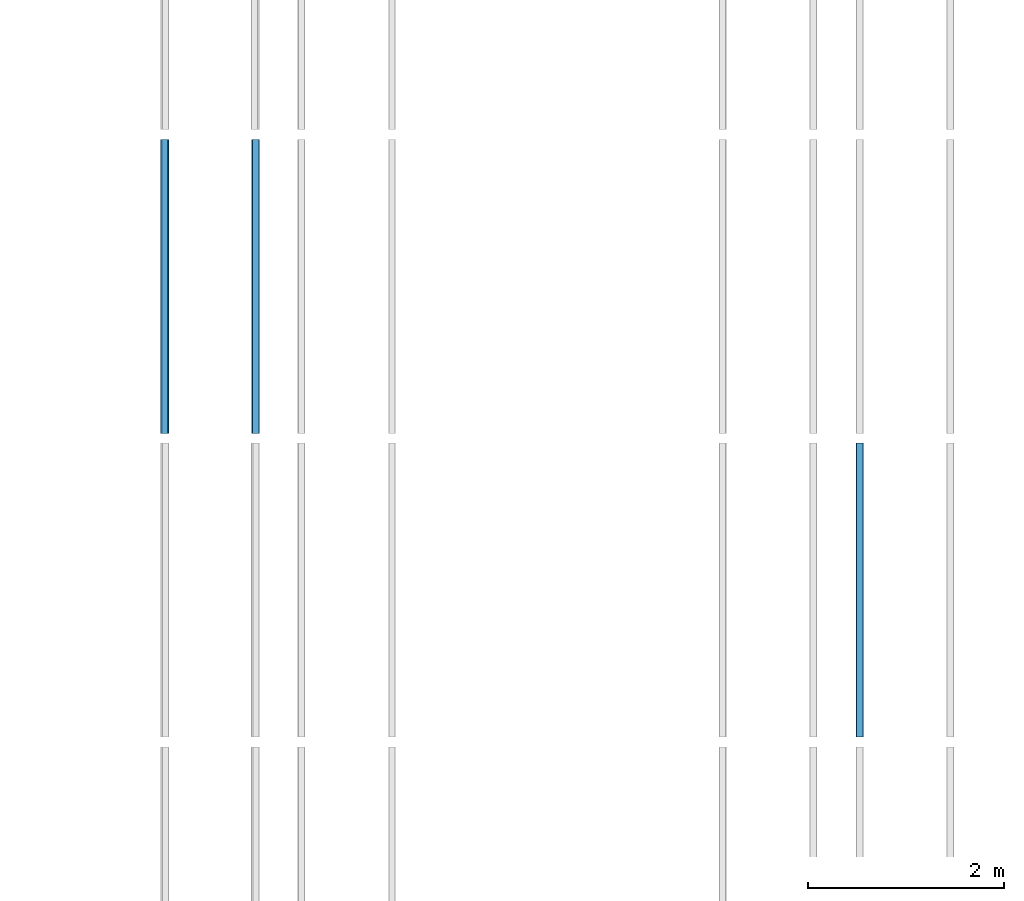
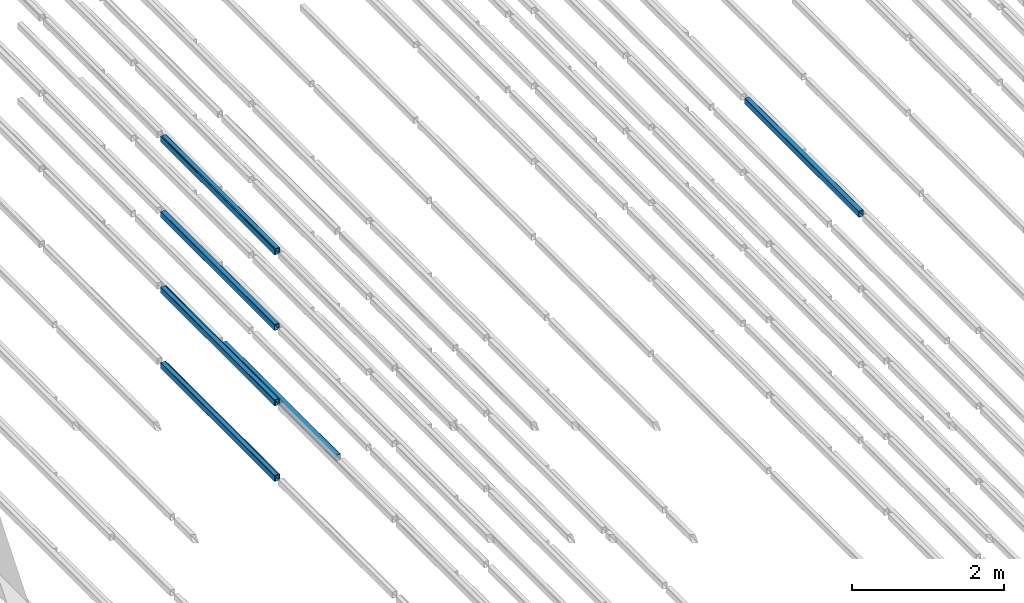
# One storey, part 60 of 290: 9 beams.
"""IFC2X3 building model written with IfcOpenShell, lengths in metres."""

from ifc_helpers import new_model, entity, si_unit, converted_unit, derived_unit, direction, frame, frame_2d, origin, place, context, subcontext, project, spatial, polyline, circle_curve, parameter, trimmed, segment, composite_curve, outline, extrude, material, type_object, element, save


model = new_model("IFC2X3")

# Units and contexts
model_context = context("Model", 3, precision=1e-05, world=origin(), true_north=direction((6.12303176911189e-17, 1.0)))
body_context = subcontext(model_context, "Body", "Model", "MODEL_VIEW")
ifc_project = project(units=[si_unit("LENGTHUNIT", "METRE"), si_unit("AREAUNIT", "SQUARE_METRE"), si_unit("VOLUMEUNIT", "CUBIC_METRE"), converted_unit("PLANEANGLEUNIT", "DEGREE", entity("IfcRatioMeasure", 0.0174532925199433), si_unit("PLANEANGLEUNIT", "RADIAN"), dimensions=[0, 0, 0, 0, 0, 0, 0]), si_unit("MASSUNIT", "GRAM", prefix="KILO"), derived_unit("MASSDENSITYUNIT", [(si_unit("MASSUNIT", "GRAM", prefix="KILO"), 1), (si_unit("LENGTHUNIT", "METRE"), -3)]), derived_unit("MOMENTOFINERTIAUNIT", [(si_unit("LENGTHUNIT", "METRE"), 4)]), si_unit("TIMEUNIT", "SECOND"), si_unit("FREQUENCYUNIT", "HERTZ"), si_unit("THERMODYNAMICTEMPERATUREUNIT", "DEGREE_CELSIUS"), derived_unit("THERMALTRANSMITTANCEUNIT", [(si_unit("MASSUNIT", "GRAM", prefix="KILO"), 1), (si_unit("THERMODYNAMICTEMPERATUREUNIT", "KELVIN"), -1), (si_unit("TIMEUNIT", "SECOND"), -3)]), derived_unit("VOLUMETRICFLOWRATEUNIT", [(si_unit("LENGTHUNIT", "METRE"), 3), (si_unit("TIMEUNIT", "SECOND"), -1)]), si_unit("ELECTRICCURRENTUNIT", "AMPERE"), si_unit("ELECTRICVOLTAGEUNIT", "VOLT"), si_unit("POWERUNIT", "WATT"), si_unit("FORCEUNIT", "NEWTON", prefix="KILO"), si_unit("ILLUMINANCEUNIT", "LUX"), si_unit("LUMINOUSFLUXUNIT", "LUMEN"), si_unit("LUMINOUSINTENSITYUNIT", "CANDELA"), derived_unit("USERDEFINED", [(si_unit("MASSUNIT", "GRAM", prefix="KILO"), -1), (si_unit("LENGTHUNIT", "METRE"), -2), (si_unit("TIMEUNIT", "SECOND"), 3), (si_unit("LUMINOUSFLUXUNIT", "LUMEN"), 1)]), derived_unit("LINEARVELOCITYUNIT", [(si_unit("LENGTHUNIT", "METRE"), 1), (si_unit("TIMEUNIT", "SECOND"), -1)]), si_unit("PRESSUREUNIT", "PASCAL"), derived_unit("USERDEFINED", [(si_unit("LENGTHUNIT", "METRE"), -2), (si_unit("MASSUNIT", "GRAM", prefix="KILO"), 1), (si_unit("TIMEUNIT", "SECOND"), -2)]), derived_unit("LINEARFORCEUNIT", [(si_unit("MASSUNIT", "GRAM", prefix="KILO"), 1), (si_unit("LENGTHUNIT", "METRE"), 1), (si_unit("TIMEUNIT", "SECOND"), -2), (si_unit("LENGTHUNIT", "METRE"), -1)]), derived_unit("PLANARFORCEUNIT", [(si_unit("MASSUNIT", "GRAM", prefix="KILO"), 1), (si_unit("LENGTHUNIT", "METRE"), 1), (si_unit("TIMEUNIT", "SECOND"), -2), (si_unit("LENGTHUNIT", "METRE"), -2)])], contexts=[model_context])

# Site, building, storey
site_placement = place(None, origin())
site = spatial("IfcSite", under=ifc_project, at=site_placement, Name="Default", CompositionType="ELEMENT")
building_placement = place(site_placement, origin())
building = spatial("IfcBuilding", under=site, at=building_placement, CompositionType="ELEMENT")
storey_placement = place(building_placement, frame((0.0, 0.0, 4.0)))
storey = spatial("IfcBuildingStorey", under=building, at=storey_placement, Name="01_OG", CompositionType="ELEMENT", Elevation=4.0)

# Beams
ifc_material = material(Name="Metall - Baustahl S235 blau")
beam_type = type_object("IfcBeamType", Name="RHS Träger (EN 10219-2):RHS 100 x 75 x 5", PredefinedType="NOTDEFINED")
beam_1_placement = place(storey_placement, frame((-195.015111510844, 39.548088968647, 2.445), z_axis=(0.0, 0.0, 1.0), x_axis=(0.0, 1.0, 0.0)))
element("IfcBeam", 1, at=beam_1_placement, inside=storey, type_object=beam_type, material=ifc_material, Name="RHS Träger (EN 10219-2):RHS 100 x 75 x 5", ObjectType="RHS Träger (EN 10219-2):RHS 100 x 75 x 5", context=body_context, shape_type="SweptSolid", body=[
    extrude(outline(composite_curve([segment(trimmed(circle_curve(frame_2d((-0.0275000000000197, -0.0399999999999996), x_axis=(1.0, 0.0)), 0.01), [parameter(180.0)], [parameter(270.0)], True, "PARAMETER"), True, "CONTINUOUS"), segment(polyline([(-0.0275000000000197, -0.0499999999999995), (0.0274999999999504, -0.0499999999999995)]), True, "CONTINUOUS"), segment(trimmed(circle_curve(frame_2d((0.0274999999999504, -0.0399999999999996), x_axis=(1.0, 0.0)), 0.01), [parameter(270.0)], [parameter(5.08888749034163e-14)], True, "PARAMETER"), True, "CONTINUOUS"), segment(polyline([(0.0374999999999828, -0.0399999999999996), (0.0374999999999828, 0.0399999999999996)]), True, "CONTINUOUS"), segment(trimmed(circle_curve(frame_2d((0.0274999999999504, 0.0399999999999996), x_axis=(1.0, 0.0)), 0.01), [parameter(360.0)], [parameter(89.9999999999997)], True, "PARAMETER"), True, "CONTINUOUS"), segment(polyline([(0.0274999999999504, 0.0500000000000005), (-0.0275000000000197, 0.0500000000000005)]), True, "CONTINUOUS"), segment(trimmed(circle_curve(frame_2d((-0.0275000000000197, 0.0399999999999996), x_axis=(1.0, 0.0)), 0.01), [parameter(90.0000000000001)], [parameter(180.0)], True, "PARAMETER"), True, "CONTINUOUS"), segment(polyline([(-0.0375000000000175, 0.0399999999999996), (-0.0375000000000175, -0.0399999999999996)]), True, "CONTINUOUS")], self_intersect=False), holes=[composite_curve([segment(polyline([(0.0274999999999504, -0.0450000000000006), (-0.0275000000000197, -0.0450000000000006)]), True, "CONTINUOUS"), segment(trimmed(circle_curve(frame_2d((-0.0275000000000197, -0.0400000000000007), x_axis=(1.0, 0.0)), 0.005), [parameter(180.0)], [parameter(270.0)], True, "PARAMETER"), False, "CONTINUOUS"), segment(polyline([(-0.0325000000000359, -0.0400000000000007), (-0.0325000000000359, 0.0399999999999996)]), True, "CONTINUOUS"), segment(trimmed(circle_curve(frame_2d((-0.0275000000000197, 0.0399999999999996), x_axis=(1.0, 0.0)), 0.005), [parameter(90.0000000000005)], [parameter(180.0)], True, "PARAMETER"), False, "CONTINUOUS"), segment(polyline([(-0.0275000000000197, 0.0449999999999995), (0.0274999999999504, 0.0449999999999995)]), True, "CONTINUOUS"), segment(trimmed(circle_curve(frame_2d((0.0274999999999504, 0.0399999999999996), x_axis=(1.0, 0.0)), 0.005), [parameter(0.0)], [parameter(90.0000000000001)], True, "PARAMETER"), False, "CONTINUOUS"), segment(polyline([(0.0324999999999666, 0.0399999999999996), (0.0324999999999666, -0.0400000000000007)]), True, "CONTINUOUS"), segment(trimmed(circle_curve(frame_2d((0.0274999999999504, -0.0400000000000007), x_axis=(1.0, 0.0)), 0.005), [parameter(270.0)], [parameter(4.07110999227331e-13)], True, "PARAMETER"), False, "CONTINUOUS")], self_intersect=False)]), frame((0.000100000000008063, 0.0374999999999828, -0.0500000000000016), z_axis=(1.0, 0.0, 0.0), x_axis=(0.0, -1.0, 0.0)), (0.0, 0.0, 1.0), 2.99979999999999),
])
beam_2_placement = place(storey_placement, frame((-202.105111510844, 42.648088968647, -1.2), z_axis=(0.0, 0.0, 1.0), x_axis=(0.0, 1.0, 0.0)))
element("IfcBeam", 2, at=beam_2_placement, inside=storey, type_object=beam_type, material=ifc_material, Name="RHS Träger (EN 10219-2):RHS 100 x 75 x 5", ObjectType="RHS Träger (EN 10219-2):RHS 100 x 75 x 5", context=body_context, shape_type="SweptSolid", body=[
    extrude(outline(composite_curve([segment(trimmed(circle_curve(frame_2d((-0.0274999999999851, -0.0400000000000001), x_axis=(1.0, 0.0)), 0.01), [parameter(180.0)], [parameter(270.0)], True, "PARAMETER"), True, "CONTINUOUS"), segment(polyline([(-0.0274999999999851, -0.05), (0.0274999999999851, -0.05)]), True, "CONTINUOUS"), segment(trimmed(circle_curve(frame_2d((0.0274999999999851, -0.0400000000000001), x_axis=(1.0, 0.0)), 0.01), [parameter(270.0)], [parameter(5.08888749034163e-14)], True, "PARAMETER"), True, "CONTINUOUS"), segment(polyline([(0.0375000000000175, -0.0400000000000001), (0.0375000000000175, 0.0400000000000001)]), True, "CONTINUOUS"), segment(trimmed(circle_curve(frame_2d((0.0274999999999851, 0.0400000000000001), x_axis=(1.0, 0.0)), 0.01), [parameter(360.0)], [parameter(89.9999999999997)], True, "PARAMETER"), True, "CONTINUOUS"), segment(polyline([(0.0274999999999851, 0.05), (-0.0274999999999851, 0.05)]), True, "CONTINUOUS"), segment(trimmed(circle_curve(frame_2d((-0.0274999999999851, 0.0400000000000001), x_axis=(1.0, 0.0)), 0.01), [parameter(90.0000000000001)], [parameter(180.0)], True, "PARAMETER"), True, "CONTINUOUS"), segment(polyline([(-0.0374999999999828, 0.0400000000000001), (-0.0374999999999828, -0.0400000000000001)]), True, "CONTINUOUS")], self_intersect=False), holes=[composite_curve([segment(polyline([(0.0274999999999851, -0.0450000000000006), (-0.0274999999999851, -0.0450000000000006)]), True, "CONTINUOUS"), segment(trimmed(circle_curve(frame_2d((-0.0274999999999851, -0.0400000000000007), x_axis=(1.0, 0.0)), 0.005), [parameter(180.0)], [parameter(270.0)], True, "PARAMETER"), False, "CONTINUOUS"), segment(polyline([(-0.0325000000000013, -0.0400000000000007), (-0.0325000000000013, 0.039999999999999)]), True, "CONTINUOUS"), segment(trimmed(circle_curve(frame_2d((-0.0274999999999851, 0.039999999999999), x_axis=(1.0, 0.0)), 0.005), [parameter(90.0000000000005)], [parameter(180.0)], True, "PARAMETER"), False, "CONTINUOUS"), segment(polyline([(-0.0274999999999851, 0.044999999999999), (0.0274999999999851, 0.044999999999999)]), True, "CONTINUOUS"), segment(trimmed(circle_curve(frame_2d((0.0274999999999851, 0.039999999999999), x_axis=(1.0, 0.0)), 0.005), [parameter(0.0)], [parameter(90.0000000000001)], True, "PARAMETER"), False, "CONTINUOUS"), segment(polyline([(0.0325000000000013, 0.039999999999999), (0.0325000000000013, -0.0400000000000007)]), True, "CONTINUOUS"), segment(trimmed(circle_curve(frame_2d((0.0274999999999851, -0.0400000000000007), x_axis=(1.0, 0.0)), 0.005), [parameter(270.0)], [parameter(4.07110999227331e-13)], True, "PARAMETER"), False, "CONTINUOUS")], self_intersect=False)]), frame((0.000100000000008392, 0.0375000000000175, -0.0500000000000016), z_axis=(1.0, 0.0, 0.0), x_axis=(0.0, -1.0, 0.0)), (0.0, 0.0, 1.0), 2.99979999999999),
])
beam_3_placement = place(storey_placement, frame((-202.105111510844, 42.648088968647, 0.0150000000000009), z_axis=(0.0, 0.0, 1.0), x_axis=(0.0, 1.0, 0.0)))
element("IfcBeam", 3, at=beam_3_placement, inside=storey, type_object=beam_type, material=ifc_material, Name="RHS Träger (EN 10219-2):RHS 100 x 75 x 5", ObjectType="RHS Träger (EN 10219-2):RHS 100 x 75 x 5", context=body_context, shape_type="SweptSolid", body=[
    extrude(outline(composite_curve([segment(trimmed(circle_curve(frame_2d((-0.0274999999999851, -0.0400000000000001), x_axis=(1.0, 0.0)), 0.01), [parameter(180.0)], [parameter(270.0)], True, "PARAMETER"), True, "CONTINUOUS"), segment(polyline([(-0.0274999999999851, -0.05), (0.0274999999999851, -0.05)]), True, "CONTINUOUS"), segment(trimmed(circle_curve(frame_2d((0.0274999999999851, -0.0400000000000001), x_axis=(1.0, 0.0)), 0.01), [parameter(270.0)], [parameter(5.08888749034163e-14)], True, "PARAMETER"), True, "CONTINUOUS"), segment(polyline([(0.0375000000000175, -0.0400000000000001), (0.0375000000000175, 0.0400000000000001)]), True, "CONTINUOUS"), segment(trimmed(circle_curve(frame_2d((0.0274999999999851, 0.0400000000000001), x_axis=(1.0, 0.0)), 0.01), [parameter(360.0)], [parameter(89.9999999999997)], True, "PARAMETER"), True, "CONTINUOUS"), segment(polyline([(0.0274999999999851, 0.05), (-0.0274999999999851, 0.05)]), True, "CONTINUOUS"), segment(trimmed(circle_curve(frame_2d((-0.0274999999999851, 0.0400000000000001), x_axis=(1.0, 0.0)), 0.01), [parameter(90.0000000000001)], [parameter(180.0)], True, "PARAMETER"), True, "CONTINUOUS"), segment(polyline([(-0.0374999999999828, 0.0400000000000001), (-0.0374999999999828, -0.0400000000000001)]), True, "CONTINUOUS")], self_intersect=False), holes=[composite_curve([segment(polyline([(0.0274999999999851, -0.0450000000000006), (-0.0274999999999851, -0.0450000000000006)]), True, "CONTINUOUS"), segment(trimmed(circle_curve(frame_2d((-0.0274999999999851, -0.0400000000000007), x_axis=(1.0, 0.0)), 0.005), [parameter(180.0)], [parameter(270.0)], True, "PARAMETER"), False, "CONTINUOUS"), segment(polyline([(-0.0325000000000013, -0.0400000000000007), (-0.0325000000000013, 0.039999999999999)]), True, "CONTINUOUS"), segment(trimmed(circle_curve(frame_2d((-0.0274999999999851, 0.039999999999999), x_axis=(1.0, 0.0)), 0.005), [parameter(90.0000000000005)], [parameter(180.0)], True, "PARAMETER"), False, "CONTINUOUS"), segment(polyline([(-0.0274999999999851, 0.044999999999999), (0.0274999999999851, 0.044999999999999)]), True, "CONTINUOUS"), segment(trimmed(circle_curve(frame_2d((0.0274999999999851, 0.039999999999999), x_axis=(1.0, 0.0)), 0.005), [parameter(0.0)], [parameter(90.0000000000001)], True, "PARAMETER"), False, "CONTINUOUS"), segment(polyline([(0.0325000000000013, 0.039999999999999), (0.0325000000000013, -0.0400000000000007)]), True, "CONTINUOUS"), segment(trimmed(circle_curve(frame_2d((0.0274999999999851, -0.0400000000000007), x_axis=(1.0, 0.0)), 0.005), [parameter(270.0)], [parameter(4.07110999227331e-13)], True, "PARAMETER"), False, "CONTINUOUS")], self_intersect=False)]), frame((0.000100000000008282, 0.0375000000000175, -0.0500000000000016), z_axis=(1.0, 0.0, 0.0), x_axis=(0.0, -1.0, 0.0)), (0.0, 0.0, 1.0), 2.99979999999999),
])
beam_4_placement = place(storey_placement, frame((-202.105111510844, 42.648088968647, 2.445), z_axis=(0.0, 0.0, 1.0), x_axis=(0.0, 1.0, 0.0)))
element("IfcBeam", 4, at=beam_4_placement, inside=storey, type_object=beam_type, material=ifc_material, Name="RHS Träger (EN 10219-2):RHS 100 x 75 x 5", ObjectType="RHS Träger (EN 10219-2):RHS 100 x 75 x 5", context=body_context, shape_type="SweptSolid", body=[
    extrude(outline(composite_curve([segment(trimmed(circle_curve(frame_2d((-0.0274999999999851, -0.0399999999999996), x_axis=(1.0, 0.0)), 0.01), [parameter(180.0)], [parameter(270.0)], True, "PARAMETER"), True, "CONTINUOUS"), segment(polyline([(-0.0274999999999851, -0.0499999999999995), (0.0274999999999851, -0.0499999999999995)]), True, "CONTINUOUS"), segment(trimmed(circle_curve(frame_2d((0.0274999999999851, -0.0399999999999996), x_axis=(1.0, 0.0)), 0.01), [parameter(270.0)], [parameter(5.08888749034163e-14)], True, "PARAMETER"), True, "CONTINUOUS"), segment(polyline([(0.0375000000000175, -0.0399999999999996), (0.0375000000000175, 0.0399999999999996)]), True, "CONTINUOUS"), segment(trimmed(circle_curve(frame_2d((0.0274999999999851, 0.0399999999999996), x_axis=(1.0, 0.0)), 0.01), [parameter(360.0)], [parameter(89.9999999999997)], True, "PARAMETER"), True, "CONTINUOUS"), segment(polyline([(0.0274999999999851, 0.0500000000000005), (-0.0274999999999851, 0.0500000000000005)]), True, "CONTINUOUS"), segment(trimmed(circle_curve(frame_2d((-0.0274999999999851, 0.0399999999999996), x_axis=(1.0, 0.0)), 0.01), [parameter(90.0000000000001)], [parameter(180.0)], True, "PARAMETER"), True, "CONTINUOUS"), segment(polyline([(-0.0374999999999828, 0.0399999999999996), (-0.0374999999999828, -0.0399999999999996)]), True, "CONTINUOUS")], self_intersect=False), holes=[composite_curve([segment(polyline([(0.0274999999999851, -0.0450000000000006), (-0.0274999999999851, -0.0450000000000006)]), True, "CONTINUOUS"), segment(trimmed(circle_curve(frame_2d((-0.0274999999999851, -0.0400000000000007), x_axis=(1.0, 0.0)), 0.005), [parameter(180.0)], [parameter(270.0)], True, "PARAMETER"), False, "CONTINUOUS"), segment(polyline([(-0.0325000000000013, -0.0400000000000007), (-0.0325000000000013, 0.0399999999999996)]), True, "CONTINUOUS"), segment(trimmed(circle_curve(frame_2d((-0.0274999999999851, 0.0399999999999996), x_axis=(1.0, 0.0)), 0.005), [parameter(90.0000000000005)], [parameter(180.0)], True, "PARAMETER"), False, "CONTINUOUS"), segment(polyline([(-0.0274999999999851, 0.0449999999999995), (0.0274999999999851, 0.0449999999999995)]), True, "CONTINUOUS"), segment(trimmed(circle_curve(frame_2d((0.0274999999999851, 0.0399999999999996), x_axis=(1.0, 0.0)), 0.005), [parameter(0.0)], [parameter(90.0000000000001)], True, "PARAMETER"), False, "CONTINUOUS"), segment(polyline([(0.0325000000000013, 0.0399999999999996), (0.0325000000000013, -0.0400000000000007)]), True, "CONTINUOUS"), segment(trimmed(circle_curve(frame_2d((0.0274999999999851, -0.0400000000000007), x_axis=(1.0, 0.0)), 0.005), [parameter(270.0)], [parameter(4.07110999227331e-13)], True, "PARAMETER"), False, "CONTINUOUS")], self_intersect=False)]), frame((0.000100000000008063, 0.0375000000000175, -0.0500000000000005), z_axis=(1.0, 0.0, 0.0), x_axis=(0.0, -1.0, 0.0)), (0.0, 0.0, 1.0), 2.99979999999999),
])
beam_5_placement = place(storey_placement, frame((-201.255111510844, 42.648088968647, -1.2), z_axis=(0.0, 0.0, 1.0), x_axis=(0.0, 1.0, 0.0)))
element("IfcBeam", 5, at=beam_5_placement, inside=storey, type_object=beam_type, material=ifc_material, Name="RHS Träger (EN 10219-2):RHS 100 x 75 x 5", ObjectType="RHS Träger (EN 10219-2):RHS 100 x 75 x 5", context=body_context, shape_type="SweptSolid", body=[
    extrude(outline(composite_curve([segment(polyline([(-0.0400000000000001, -0.0374999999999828), (0.0400000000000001, -0.0374999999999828)]), True, "CONTINUOUS"), segment(trimmed(circle_curve(frame_2d((0.0400000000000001, -0.0274999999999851), x_axis=(0.0, 1.0)), 0.01), [parameter(180.0)], [parameter(270.0)], True, "PARAMETER"), True, "CONTINUOUS"), segment(polyline([(0.05, -0.0274999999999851), (0.05, 0.0274999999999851)]), True, "CONTINUOUS"), segment(trimmed(circle_curve(frame_2d((0.0400000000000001, 0.0274999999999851), x_axis=(0.0, 1.0)), 0.01), [parameter(270.0)], [parameter(4.07110999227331e-13)], True, "PARAMETER"), True, "CONTINUOUS"), segment(polyline([(0.0400000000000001, 0.0375000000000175), (-0.0400000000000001, 0.0375000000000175)]), True, "CONTINUOUS"), segment(trimmed(circle_curve(frame_2d((-0.0400000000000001, 0.0274999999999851), x_axis=(0.0, 1.0)), 0.01), [parameter(360.0)], [parameter(90.0000000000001)], True, "PARAMETER"), True, "CONTINUOUS"), segment(polyline([(-0.05, 0.0274999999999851), (-0.05, -0.0274999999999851)]), True, "CONTINUOUS"), segment(trimmed(circle_curve(frame_2d((-0.0400000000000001, -0.0274999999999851), x_axis=(0.0, 1.0)), 0.01), [parameter(90.0000000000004)], [parameter(180.0)], True, "PARAMETER"), True, "CONTINUOUS")], self_intersect=False), holes=[composite_curve([segment(trimmed(circle_curve(frame_2d((-0.0400000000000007, 0.0274999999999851), x_axis=(0.0, 1.0)), 0.005), [parameter(360.0)], [parameter(89.9999999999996)], True, "PARAMETER"), False, "CONTINUOUS"), segment(polyline([(-0.0400000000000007, 0.0325000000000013), (0.039999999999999, 0.0325000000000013)]), True, "CONTINUOUS"), segment(trimmed(circle_curve(frame_2d((0.039999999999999, 0.0274999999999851), x_axis=(0.0, 1.0)), 0.005), [parameter(270.0)], [parameter(0.0)], True, "PARAMETER"), False, "CONTINUOUS"), segment(polyline([(0.044999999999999, 0.0274999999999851), (0.044999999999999, -0.0274999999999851)]), True, "CONTINUOUS"), segment(trimmed(circle_curve(frame_2d((0.039999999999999, -0.0274999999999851), x_axis=(0.0, 1.0)), 0.005), [parameter(180.0)], [parameter(269.999999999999)], True, "PARAMETER"), False, "CONTINUOUS"), segment(polyline([(0.039999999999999, -0.0325000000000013), (-0.0400000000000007, -0.0325000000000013)]), True, "CONTINUOUS"), segment(trimmed(circle_curve(frame_2d((-0.0400000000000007, -0.0274999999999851), x_axis=(0.0, 1.0)), 0.005), [parameter(90.0000000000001)], [parameter(180.0)], True, "PARAMETER"), False, "CONTINUOUS"), segment(polyline([(-0.0450000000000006, -0.0274999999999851), (-0.0450000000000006, 0.0274999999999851)]), True, "CONTINUOUS")], self_intersect=False)]), frame((0.000100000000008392, -0.0375000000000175, -0.0500000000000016), z_axis=(1.0, 0.0, 0.0), x_axis=(0.0, 0.0, -1.0)), (0.0, 0.0, 1.0), 2.99979999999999),
])
beam_6_placement = place(storey_placement, frame((-202.115111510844, 42.648088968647, -1.2), z_axis=(0.0, 0.0, 1.0), x_axis=(0.0, 1.0, 0.0)))
element("IfcBeam", 6, at=beam_6_placement, inside=storey, type_object=beam_type, material=ifc_material, Name="RHS Träger (EN 10219-2):RHS 100 x 75 x 5", ObjectType="RHS Träger (EN 10219-2):RHS 100 x 75 x 5", context=body_context, shape_type="SweptSolid", body=[
    extrude(outline(composite_curve([segment(trimmed(circle_curve(frame_2d((-0.0274999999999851, -0.0400000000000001), x_axis=(1.0, 0.0)), 0.01), [parameter(180.0)], [parameter(270.0)], True, "PARAMETER"), True, "CONTINUOUS"), segment(polyline([(-0.0274999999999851, -0.05), (0.0274999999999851, -0.05)]), True, "CONTINUOUS"), segment(trimmed(circle_curve(frame_2d((0.0274999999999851, -0.0400000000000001), x_axis=(1.0, 0.0)), 0.01), [parameter(270.0)], [parameter(5.08888749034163e-14)], True, "PARAMETER"), True, "CONTINUOUS"), segment(polyline([(0.0375000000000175, -0.0400000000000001), (0.0375000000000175, 0.0400000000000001)]), True, "CONTINUOUS"), segment(trimmed(circle_curve(frame_2d((0.0274999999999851, 0.0400000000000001), x_axis=(1.0, 0.0)), 0.01), [parameter(360.0)], [parameter(89.9999999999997)], True, "PARAMETER"), True, "CONTINUOUS"), segment(polyline([(0.0274999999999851, 0.05), (-0.0274999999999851, 0.05)]), True, "CONTINUOUS"), segment(trimmed(circle_curve(frame_2d((-0.0274999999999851, 0.0400000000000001), x_axis=(1.0, 0.0)), 0.01), [parameter(90.0000000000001)], [parameter(180.0)], True, "PARAMETER"), True, "CONTINUOUS"), segment(polyline([(-0.0374999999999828, 0.0400000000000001), (-0.0374999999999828, -0.0400000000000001)]), True, "CONTINUOUS")], self_intersect=False), holes=[composite_curve([segment(polyline([(0.0274999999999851, -0.0450000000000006), (-0.0274999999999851, -0.0450000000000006)]), True, "CONTINUOUS"), segment(trimmed(circle_curve(frame_2d((-0.0274999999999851, -0.0400000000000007), x_axis=(1.0, 0.0)), 0.005), [parameter(180.0)], [parameter(270.0)], True, "PARAMETER"), False, "CONTINUOUS"), segment(polyline([(-0.0325000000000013, -0.0400000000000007), (-0.0325000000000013, 0.039999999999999)]), True, "CONTINUOUS"), segment(trimmed(circle_curve(frame_2d((-0.0274999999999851, 0.039999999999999), x_axis=(1.0, 0.0)), 0.005), [parameter(90.0000000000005)], [parameter(180.0)], True, "PARAMETER"), False, "CONTINUOUS"), segment(polyline([(-0.0274999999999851, 0.044999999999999), (0.0274999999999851, 0.044999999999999)]), True, "CONTINUOUS"), segment(trimmed(circle_curve(frame_2d((0.0274999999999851, 0.039999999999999), x_axis=(1.0, 0.0)), 0.005), [parameter(0.0)], [parameter(90.0000000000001)], True, "PARAMETER"), False, "CONTINUOUS"), segment(polyline([(0.0325000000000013, 0.039999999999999), (0.0325000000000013, -0.0400000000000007)]), True, "CONTINUOUS"), segment(trimmed(circle_curve(frame_2d((0.0274999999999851, -0.0400000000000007), x_axis=(1.0, 0.0)), 0.005), [parameter(270.0)], [parameter(4.07110999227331e-13)], True, "PARAMETER"), False, "CONTINUOUS")], self_intersect=False)]), frame((0.000100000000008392, 0.0375000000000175, -0.0500000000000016), z_axis=(1.0, 0.0, 0.0), x_axis=(0.0, -1.0, 0.0)), (0.0, 0.0, 1.0), 2.99979999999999),
])
beam_7_placement = place(storey_placement, frame((-202.115111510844, 42.648088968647, 0.0150000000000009), z_axis=(0.0, 0.0, 1.0), x_axis=(0.0, 1.0, 0.0)))
element("IfcBeam", 7, at=beam_7_placement, inside=storey, type_object=beam_type, material=ifc_material, Name="RHS Träger (EN 10219-2):RHS 100 x 75 x 5", ObjectType="RHS Träger (EN 10219-2):RHS 100 x 75 x 5", context=body_context, shape_type="SweptSolid", body=[
    extrude(outline(composite_curve([segment(trimmed(circle_curve(frame_2d((-0.0274999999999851, -0.0400000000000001), x_axis=(1.0, 0.0)), 0.01), [parameter(180.0)], [parameter(270.0)], True, "PARAMETER"), True, "CONTINUOUS"), segment(polyline([(-0.0274999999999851, -0.05), (0.0274999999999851, -0.05)]), True, "CONTINUOUS"), segment(trimmed(circle_curve(frame_2d((0.0274999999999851, -0.0400000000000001), x_axis=(1.0, 0.0)), 0.01), [parameter(270.0)], [parameter(5.08888749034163e-14)], True, "PARAMETER"), True, "CONTINUOUS"), segment(polyline([(0.0375000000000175, -0.0400000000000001), (0.0375000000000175, 0.0400000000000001)]), True, "CONTINUOUS"), segment(trimmed(circle_curve(frame_2d((0.0274999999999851, 0.0400000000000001), x_axis=(1.0, 0.0)), 0.01), [parameter(360.0)], [parameter(89.9999999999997)], True, "PARAMETER"), True, "CONTINUOUS"), segment(polyline([(0.0274999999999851, 0.05), (-0.0274999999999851, 0.05)]), True, "CONTINUOUS"), segment(trimmed(circle_curve(frame_2d((-0.0274999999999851, 0.0400000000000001), x_axis=(1.0, 0.0)), 0.01), [parameter(90.0000000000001)], [parameter(180.0)], True, "PARAMETER"), True, "CONTINUOUS"), segment(polyline([(-0.0374999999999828, 0.0400000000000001), (-0.0374999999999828, -0.0400000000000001)]), True, "CONTINUOUS")], self_intersect=False), holes=[composite_curve([segment(polyline([(0.0274999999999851, -0.0450000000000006), (-0.0274999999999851, -0.0450000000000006)]), True, "CONTINUOUS"), segment(trimmed(circle_curve(frame_2d((-0.0274999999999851, -0.0400000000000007), x_axis=(1.0, 0.0)), 0.005), [parameter(180.0)], [parameter(270.0)], True, "PARAMETER"), False, "CONTINUOUS"), segment(polyline([(-0.0325000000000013, -0.0400000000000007), (-0.0325000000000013, 0.039999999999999)]), True, "CONTINUOUS"), segment(trimmed(circle_curve(frame_2d((-0.0274999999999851, 0.039999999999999), x_axis=(1.0, 0.0)), 0.005), [parameter(90.0000000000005)], [parameter(180.0)], True, "PARAMETER"), False, "CONTINUOUS"), segment(polyline([(-0.0274999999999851, 0.044999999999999), (0.0274999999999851, 0.044999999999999)]), True, "CONTINUOUS"), segment(trimmed(circle_curve(frame_2d((0.0274999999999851, 0.039999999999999), x_axis=(1.0, 0.0)), 0.005), [parameter(0.0)], [parameter(90.0000000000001)], True, "PARAMETER"), False, "CONTINUOUS"), segment(polyline([(0.0325000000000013, 0.039999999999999), (0.0325000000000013, -0.0400000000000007)]), True, "CONTINUOUS"), segment(trimmed(circle_curve(frame_2d((0.0274999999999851, -0.0400000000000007), x_axis=(1.0, 0.0)), 0.005), [parameter(270.0)], [parameter(4.07110999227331e-13)], True, "PARAMETER"), False, "CONTINUOUS")], self_intersect=False)]), frame((0.000100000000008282, 0.0375000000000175, -0.0500000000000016), z_axis=(1.0, 0.0, 0.0), x_axis=(0.0, -1.0, 0.0)), (0.0, 0.0, 1.0), 2.99979999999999),
])
beam_8_placement = place(storey_placement, frame((-202.115111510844, 42.648088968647, 1.23), z_axis=(0.0, 0.0, 1.0), x_axis=(0.0, 1.0, 0.0)))
element("IfcBeam", 8, at=beam_8_placement, inside=storey, type_object=beam_type, material=ifc_material, Name="RHS Träger (EN 10219-2):RHS 100 x 75 x 5", ObjectType="RHS Träger (EN 10219-2):RHS 100 x 75 x 5", context=body_context, shape_type="SweptSolid", body=[
    extrude(outline(composite_curve([segment(trimmed(circle_curve(frame_2d((-0.0274999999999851, -0.0399999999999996), x_axis=(1.0, 0.0)), 0.01), [parameter(180.0)], [parameter(270.0)], True, "PARAMETER"), True, "CONTINUOUS"), segment(polyline([(-0.0274999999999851, -0.0499999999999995), (0.0274999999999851, -0.0499999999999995)]), True, "CONTINUOUS"), segment(trimmed(circle_curve(frame_2d((0.0274999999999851, -0.0399999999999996), x_axis=(1.0, 0.0)), 0.01), [parameter(270.0)], [parameter(5.08888749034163e-14)], True, "PARAMETER"), True, "CONTINUOUS"), segment(polyline([(0.0375000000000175, -0.0399999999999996), (0.0375000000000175, 0.0399999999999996)]), True, "CONTINUOUS"), segment(trimmed(circle_curve(frame_2d((0.0274999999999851, 0.0399999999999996), x_axis=(1.0, 0.0)), 0.01), [parameter(360.0)], [parameter(89.9999999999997)], True, "PARAMETER"), True, "CONTINUOUS"), segment(polyline([(0.0274999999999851, 0.0500000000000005), (-0.0274999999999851, 0.0500000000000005)]), True, "CONTINUOUS"), segment(trimmed(circle_curve(frame_2d((-0.0274999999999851, 0.0399999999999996), x_axis=(1.0, 0.0)), 0.01), [parameter(90.0000000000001)], [parameter(180.0)], True, "PARAMETER"), True, "CONTINUOUS"), segment(polyline([(-0.0374999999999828, 0.0399999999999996), (-0.0374999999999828, -0.0399999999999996)]), True, "CONTINUOUS")], self_intersect=False), holes=[composite_curve([segment(polyline([(0.0274999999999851, -0.0450000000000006), (-0.0274999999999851, -0.0450000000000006)]), True, "CONTINUOUS"), segment(trimmed(circle_curve(frame_2d((-0.0274999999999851, -0.0400000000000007), x_axis=(1.0, 0.0)), 0.005), [parameter(180.0)], [parameter(270.0)], True, "PARAMETER"), False, "CONTINUOUS"), segment(polyline([(-0.0325000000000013, -0.0400000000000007), (-0.0325000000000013, 0.0399999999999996)]), True, "CONTINUOUS"), segment(trimmed(circle_curve(frame_2d((-0.0274999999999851, 0.0399999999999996), x_axis=(1.0, 0.0)), 0.005), [parameter(90.0000000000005)], [parameter(180.0)], True, "PARAMETER"), False, "CONTINUOUS"), segment(polyline([(-0.0274999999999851, 0.0449999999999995), (0.0274999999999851, 0.0449999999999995)]), True, "CONTINUOUS"), segment(trimmed(circle_curve(frame_2d((0.0274999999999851, 0.0399999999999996), x_axis=(1.0, 0.0)), 0.005), [parameter(0.0)], [parameter(90.0000000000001)], True, "PARAMETER"), False, "CONTINUOUS"), segment(polyline([(0.0325000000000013, 0.0399999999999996), (0.0325000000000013, -0.0400000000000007)]), True, "CONTINUOUS"), segment(trimmed(circle_curve(frame_2d((0.0274999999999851, -0.0400000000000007), x_axis=(1.0, 0.0)), 0.005), [parameter(270.0)], [parameter(4.07110999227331e-13)], True, "PARAMETER"), False, "CONTINUOUS")], self_intersect=False)]), frame((0.000100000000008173, 0.0375000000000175, -0.0500000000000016), z_axis=(1.0, 0.0, 0.0), x_axis=(0.0, -1.0, 0.0)), (0.0, 0.0, 1.0), 2.99979999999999),
])
beam_9_placement = place(storey_placement, frame((-202.115111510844, 42.648088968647, 2.445), z_axis=(0.0, 0.0, 1.0), x_axis=(0.0, 1.0, 0.0)))
element("IfcBeam", 9, at=beam_9_placement, inside=storey, type_object=beam_type, material=ifc_material, Name="RHS Träger (EN 10219-2):RHS 100 x 75 x 5", ObjectType="RHS Träger (EN 10219-2):RHS 100 x 75 x 5", context=body_context, shape_type="SweptSolid", body=[
    extrude(outline(composite_curve([segment(trimmed(circle_curve(frame_2d((-0.0274999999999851, -0.0399999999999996), x_axis=(1.0, 0.0)), 0.01), [parameter(180.0)], [parameter(270.0)], True, "PARAMETER"), True, "CONTINUOUS"), segment(polyline([(-0.0274999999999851, -0.0499999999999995), (0.0274999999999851, -0.0499999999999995)]), True, "CONTINUOUS"), segment(trimmed(circle_curve(frame_2d((0.0274999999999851, -0.0399999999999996), x_axis=(1.0, 0.0)), 0.01), [parameter(270.0)], [parameter(5.08888749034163e-14)], True, "PARAMETER"), True, "CONTINUOUS"), segment(polyline([(0.0375000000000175, -0.0399999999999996), (0.0375000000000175, 0.0399999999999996)]), True, "CONTINUOUS"), segment(trimmed(circle_curve(frame_2d((0.0274999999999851, 0.0399999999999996), x_axis=(1.0, 0.0)), 0.01), [parameter(360.0)], [parameter(89.9999999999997)], True, "PARAMETER"), True, "CONTINUOUS"), segment(polyline([(0.0274999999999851, 0.0500000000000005), (-0.0274999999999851, 0.0500000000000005)]), True, "CONTINUOUS"), segment(trimmed(circle_curve(frame_2d((-0.0274999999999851, 0.0399999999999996), x_axis=(1.0, 0.0)), 0.01), [parameter(90.0000000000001)], [parameter(180.0)], True, "PARAMETER"), True, "CONTINUOUS"), segment(polyline([(-0.0374999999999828, 0.0399999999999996), (-0.0374999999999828, -0.0399999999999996)]), True, "CONTINUOUS")], self_intersect=False), holes=[composite_curve([segment(polyline([(0.0274999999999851, -0.0450000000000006), (-0.0274999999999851, -0.0450000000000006)]), True, "CONTINUOUS"), segment(trimmed(circle_curve(frame_2d((-0.0274999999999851, -0.0400000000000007), x_axis=(1.0, 0.0)), 0.005), [parameter(180.0)], [parameter(270.0)], True, "PARAMETER"), False, "CONTINUOUS"), segment(polyline([(-0.0325000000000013, -0.0400000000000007), (-0.0325000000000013, 0.0399999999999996)]), True, "CONTINUOUS"), segment(trimmed(circle_curve(frame_2d((-0.0274999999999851, 0.0399999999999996), x_axis=(1.0, 0.0)), 0.005), [parameter(90.0000000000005)], [parameter(180.0)], True, "PARAMETER"), False, "CONTINUOUS"), segment(polyline([(-0.0274999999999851, 0.0449999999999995), (0.0274999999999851, 0.0449999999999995)]), True, "CONTINUOUS"), segment(trimmed(circle_curve(frame_2d((0.0274999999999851, 0.0399999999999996), x_axis=(1.0, 0.0)), 0.005), [parameter(0.0)], [parameter(90.0000000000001)], True, "PARAMETER"), False, "CONTINUOUS"), segment(polyline([(0.0325000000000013, 0.0399999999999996), (0.0325000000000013, -0.0400000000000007)]), True, "CONTINUOUS"), segment(trimmed(circle_curve(frame_2d((0.0274999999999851, -0.0400000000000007), x_axis=(1.0, 0.0)), 0.005), [parameter(270.0)], [parameter(4.07110999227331e-13)], True, "PARAMETER"), False, "CONTINUOUS")], self_intersect=False)]), frame((0.000100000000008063, 0.0375000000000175, -0.0500000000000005), z_axis=(1.0, 0.0, 0.0), x_axis=(0.0, -1.0, 0.0)), (0.0, 0.0, 1.0), 2.99979999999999),
])

save(model, "model.ifc")
